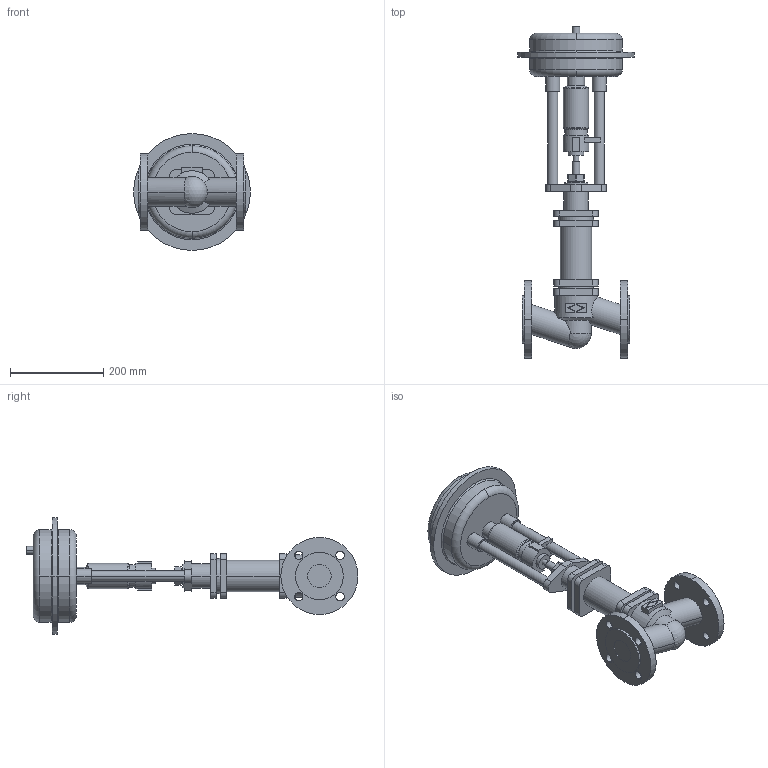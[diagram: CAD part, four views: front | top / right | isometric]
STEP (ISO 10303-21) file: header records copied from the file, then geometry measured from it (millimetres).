
FILE_DESCRIPTION( ( '' ), '1' );
FILE_NAME( 'F:/DE-SHS/TB/OR/04-Sonstiges/daten/files_3d/441-DP/c000006300.stp', '2016-06-08T05:49:33', ( '' ), ( '' ), ' ', ' ', ' ' );
FILE_SCHEMA( ( 'CONFIG_CONTROL_DESIGN' ) );
Length unit declared in the file: millimetre
Products named in the file (2): 1; 2
Bounding box: 250 x 710.5 x 250 mm (x, y, z)
Volume: 6319323.3 mm3; surface area: 478091.1 mm2
Topology: 2 solids, 2 shells, 220 faces, 557 edges, 372 vertices
Faces by surface type: cylinder 104, plane 93, torus 16, cone 6, sphere 1
Entity records: 7326 total; most frequent: CARTESIAN_POINT 1637, DIRECTION 1264, ORIENTED_EDGE 1110, EDGE_CURVE 555, AXIS2_PLACEMENT_3D 501, VERTEX_POINT 372, CIRCLE 275, EDGE_LOOP 269
